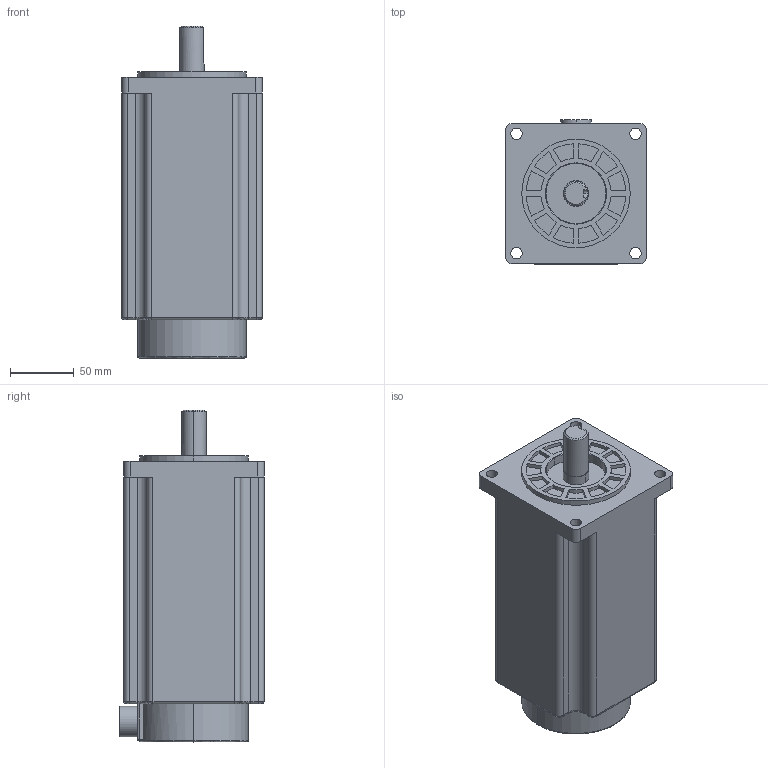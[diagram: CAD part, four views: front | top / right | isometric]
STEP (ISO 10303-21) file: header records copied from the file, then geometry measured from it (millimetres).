
FILE_DESCRIPTION (( 'STEP AP203' ), '1' );
FILE_NAME ('YK31122A.STEP', '2021-07-03T09:28:11', ( 'Admin' ), ( '' ), 'SwSTEP 2.0', 'SolidWorks 2016', '' );
FILE_SCHEMA (( 'CONFIG_CONTROL_DESIGN' ));
Length unit declared in the file: millimetre
Products named in the file (1): YK31122A
Bounding box: 110 x 113 x 260 mm (x, y, z)
Volume: 2248390.9 mm3; surface area: 119983.9 mm2
Topology: 1 solids, 1 shells, 190 faces, 461 edges, 294 vertices
Faces by surface type: cylinder 90, plane 72, bspline 16, torus 8, cone 4
Entity records: 5904 total; most frequent: CARTESIAN_POINT 1301, DIRECTION 992, ORIENTED_EDGE 918, EDGE_CURVE 459, AXIS2_PLACEMENT_3D 381, VERTEX_POINT 294, LINE 230, VECTOR 230
